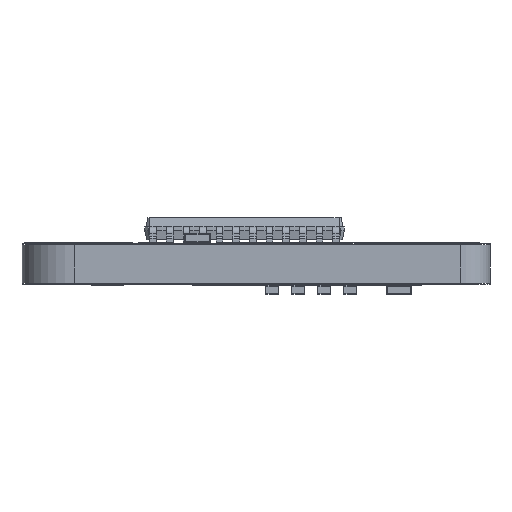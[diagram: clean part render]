
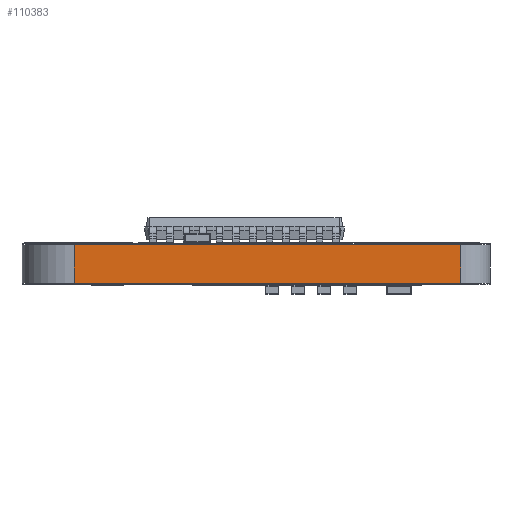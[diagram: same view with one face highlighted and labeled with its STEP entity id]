
A CAD part, left-side view. The second image highlights one B-rep face of the part: STEP entity #110383.
In plain terms, the highlighted planar face has unit normal (-1, 0, 0).
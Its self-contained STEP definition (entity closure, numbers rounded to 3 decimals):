
#109636 = VERTEX_POINT('',#109637);
#109637 = CARTESIAN_POINT('',(114.506,-105.768,0.));
#109644 = EDGE_CURVE('',#109645,#109636,#109647,.T.);
#109645 = VERTEX_POINT('',#109646);
#109646 = CARTESIAN_POINT('',(114.506,-120.881,0.));
#109647 = LINE('',#109648,#109649);
#109648 = CARTESIAN_POINT('',(114.506,-120.881,0.));
#109649 = VECTOR('',#109650,1.);
#109650 = DIRECTION('',(0.,1.,0.));
#109996 = VERTEX_POINT('',#109997);
#109997 = CARTESIAN_POINT('',(114.506,-105.768,1.51));
#110004 = EDGE_CURVE('',#110005,#109996,#110007,.T.);
#110005 = VERTEX_POINT('',#110006);
#110006 = CARTESIAN_POINT('',(114.506,-120.881,1.51));
#110007 = LINE('',#110008,#110009);
#110008 = CARTESIAN_POINT('',(114.506,-120.881,1.51));
#110009 = VECTOR('',#110010,1.);
#110010 = DIRECTION('',(0.,1.,0.));
#110353 = EDGE_CURVE('',#109636,#109996,#110354,.T.);
#110354 = LINE('',#110355,#110356);
#110355 = CARTESIAN_POINT('',(114.506,-105.768,0.));
#110356 = VECTOR('',#110357,1.);
#110357 = DIRECTION('',(0.,0.,1.));
#110383 = ADVANCED_FACE('',(#110384),#110395,.T.);
#110384 = FACE_BOUND('',#110385,.T.);
#110385 = EDGE_LOOP('',(#110386,#110392,#110393,#110394));
#110386 = ORIENTED_EDGE('',*,*,#110387,.T.);
#110387 = EDGE_CURVE('',#109645,#110005,#110388,.T.);
#110388 = LINE('',#110389,#110390);
#110389 = CARTESIAN_POINT('',(114.506,-120.881,0.));
#110390 = VECTOR('',#110391,1.);
#110391 = DIRECTION('',(0.,0.,1.));
#110392 = ORIENTED_EDGE('',*,*,#110004,.T.);
#110393 = ORIENTED_EDGE('',*,*,#110353,.F.);
#110394 = ORIENTED_EDGE('',*,*,#109644,.F.);
#110395 = PLANE('',#110396);
#110396 = AXIS2_PLACEMENT_3D('',#110397,#110398,#110399);
#110397 = CARTESIAN_POINT('',(114.506,-120.881,0.));
#110398 = DIRECTION('',(-1.,0.,0.));
#110399 = DIRECTION('',(0.,1.,0.));
